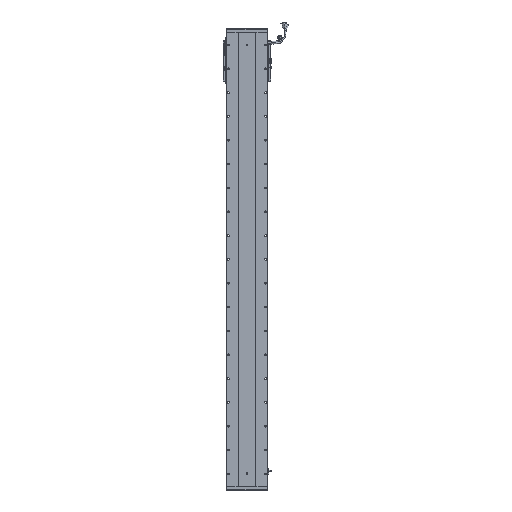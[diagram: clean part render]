
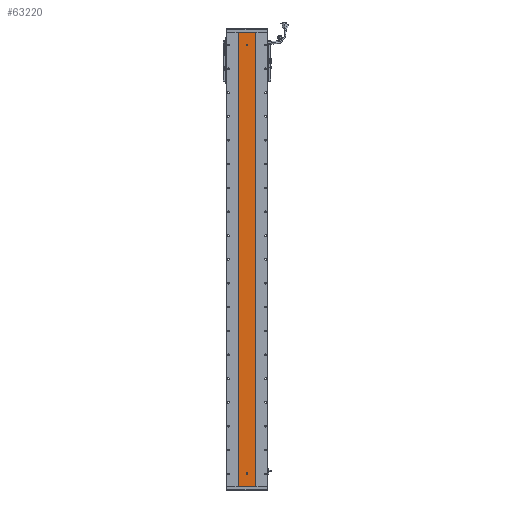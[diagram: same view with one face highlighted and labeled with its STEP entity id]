
A CAD part, front view. The second image highlights one B-rep face of the part: STEP entity #63220.
In plain terms, the highlighted planar face has unit normal (0, -1, 0).
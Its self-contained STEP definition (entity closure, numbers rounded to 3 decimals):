
#448 = CARTESIAN_POINT ( 'NONE',  ( 3277.529, 1415.701, 55. ) ) ;
#2297 = EDGE_CURVE ( 'NONE', #65979, #25247, #43975, .T. ) ;
#2736 = VERTEX_POINT ( 'NONE', #63523 ) ;
#4234 = EDGE_CURVE ( 'NONE', #40079, #34575, #43785, .T. ) ;
#5118 = DIRECTION ( 'NONE',  ( 0., -1., 0. ) ) ;
#5857 = CARTESIAN_POINT ( 'NONE',  ( 3244.748, 1415.701, 1907. ) ) ;
#9708 = EDGE_CURVE ( 'NONE', #34575, #94309, #72416, .T. ) ;
#11545 = CARTESIAN_POINT ( 'NONE',  ( 3316.311, 1415.701, 1907. ) ) ;
#12013 = DIRECTION ( 'NONE',  ( 1., 0., 0. ) ) ;
#13098 = ORIENTED_EDGE ( 'NONE', *, *, #4234, .F. ) ;
#13667 = VECTOR ( 'NONE', #12013, 1000. ) ;
#14312 = CARTESIAN_POINT ( 'NONE',  ( 3244.748, 1415.701, 1907. ) ) ;
#15461 = AXIS2_PLACEMENT_3D ( 'NONE', #87254, #79362, #96245 ) ;
#16588 = CARTESIAN_POINT ( 'NONE',  ( 3244.748, 1415.701, 1907. ) ) ;
#17383 = LINE ( 'NONE', #14312, #75089 ) ;
#17495 = FACE_BOUND ( 'NONE', #66786, .T. ) ;
#17762 = VECTOR ( 'NONE', #80614, 1000. ) ;
#18604 = DIRECTION ( 'NONE',  ( 0., 0., -1. ) ) ;
#18872 = EDGE_CURVE ( 'NONE', #72024, #2736, #24408, .T. ) ;
#20574 = CARTESIAN_POINT ( 'NONE',  ( 3316.311, 1415.701, 1907. ) ) ;
#22018 = CARTESIAN_POINT ( 'NONE',  ( 3280.529, 1415.701, 1853.5 ) ) ;
#23099 = CARTESIAN_POINT ( 'NONE',  ( 3280.529, 1415.701, 1853.5 ) ) ;
#23651 = CARTESIAN_POINT ( 'NONE',  ( 3244.748, 1415.701, 1907. ) ) ;
#23730 = CIRCLE ( 'NONE', #64740, 3. ) ;
#23943 = CARTESIAN_POINT ( 'NONE',  ( 3277.529, 1415.701, 52. ) ) ;
#24081 = LINE ( 'NONE', #72041, #109971 ) ;
#24408 = LINE ( 'NONE', #20574, #17762 ) ;
#24432 = LINE ( 'NONE', #23651, #13667 ) ;
#25247 = VERTEX_POINT ( 'NONE', #448 ) ;
#28951 = VERTEX_POINT ( 'NONE', #41311 ) ;
#29260 = EDGE_CURVE ( 'NONE', #60707, #28951, #41741, .T. ) ;
#31690 = ORIENTED_EDGE ( 'NONE', *, *, #84267, .F. ) ;
#34381 = AXIS2_PLACEMENT_3D ( 'NONE', #52802, #70754, #18604 ) ;
#34575 = VERTEX_POINT ( 'NONE', #75793 ) ;
#36376 = CARTESIAN_POINT ( 'NONE',  ( 3283.529, 1415.701, 52. ) ) ;
#38390 = EDGE_LOOP ( 'NONE', ( #93043, #100247 ) ) ;
#39018 = CARTESIAN_POINT ( 'NONE',  ( 3244.748, 1415.701, 0. ) ) ;
#39705 = ORIENTED_EDGE ( 'NONE', *, *, #2297, .F. ) ;
#39731 = ORIENTED_EDGE ( 'NONE', *, *, #9708, .F. ) ;
#40079 = VERTEX_POINT ( 'NONE', #23943 ) ;
#41311 = CARTESIAN_POINT ( 'NONE',  ( 3280.529, 1415.701, 1856.5 ) ) ;
#41741 = CIRCLE ( 'NONE', #86879, 3. ) ;
#43785 = CIRCLE ( 'NONE', #99282, 3. ) ;
#43975 = CIRCLE ( 'NONE', #34381, 3. ) ;
#47576 = DIRECTION ( 'NONE',  ( 0., 0., -1. ) ) ;
#47913 = CARTESIAN_POINT ( 'NONE',  ( 3280.529, 1415.701, 52. ) ) ;
#49701 = ORIENTED_EDGE ( 'NONE', *, *, #92237, .T. ) ;
#49798 = LINE ( 'NONE', #72960, #71170 ) ;
#51871 = VERTEX_POINT ( 'NONE', #5857 ) ;
#52802 = CARTESIAN_POINT ( 'NONE',  ( 3280.529, 1415.701, 55. ) ) ;
#53236 = CARTESIAN_POINT ( 'NONE',  ( 3280.529, 1415.701, 1850.5 ) ) ;
#57448 = DIRECTION ( 'NONE',  ( 1., 0., 0. ) ) ;
#57679 = DIRECTION ( 'NONE',  ( 0., 0., -1. ) ) ;
#58076 = EDGE_CURVE ( 'NONE', #28951, #60707, #23730, .T. ) ;
#60153 = ORIENTED_EDGE ( 'NONE', *, *, #18872, .F. ) ;
#60707 = VERTEX_POINT ( 'NONE', #53236 ) ;
#60918 = DIRECTION ( 'NONE',  ( 0., 0., 1. ) ) ;
#63220 = ADVANCED_FACE ( 'NONE', ( #17495, #106049, #103371 ), #84874, .F. ) ;
#63523 = CARTESIAN_POINT ( 'NONE',  ( 3316.311, 1415.701, 0. ) ) ;
#64740 = AXIS2_PLACEMENT_3D ( 'NONE', #23099, #5118, #57679 ) ;
#65979 = VERTEX_POINT ( 'NONE', #81621 ) ;
#66588 = AXIS2_PLACEMENT_3D ( 'NONE', #16588, #102483, #60918 ) ;
#66786 = EDGE_LOOP ( 'NONE', ( #13098, #96999, #39705, #31690, #39731 ) ) ;
#66864 = ORIENTED_EDGE ( 'NONE', *, *, #79208, .T. ) ;
#69098 = EDGE_CURVE ( 'NONE', #51871, #72024, #24432, .T. ) ;
#70214 = EDGE_CURVE ( 'NONE', #25247, #40079, #49798, .T. ) ;
#70754 = DIRECTION ( 'NONE',  ( 0., -1., 0. ) ) ;
#71170 = VECTOR ( 'NONE', #73704, 1000. ) ;
#71704 = ORIENTED_EDGE ( 'NONE', *, *, #69098, .F. ) ;
#72024 = VERTEX_POINT ( 'NONE', #11545 ) ;
#72041 = CARTESIAN_POINT ( 'NONE',  ( 3283.529, 1415.701, 55. ) ) ;
#72416 = CIRCLE ( 'NONE', #15461, 3. ) ;
#72810 = CARTESIAN_POINT ( 'NONE',  ( 3244.748, 1415.701, 0. ) ) ;
#72960 = CARTESIAN_POINT ( 'NONE',  ( 3277.529, 1415.701, 55. ) ) ;
#73419 = DIRECTION ( 'NONE',  ( 0., 0., -1. ) ) ;
#73704 = DIRECTION ( 'NONE',  ( 0., 0., -1. ) ) ;
#75089 = VECTOR ( 'NONE', #98730, 1000. ) ;
#75793 = CARTESIAN_POINT ( 'NONE',  ( 3280.529, 1415.701, 49. ) ) ;
#77131 = VERTEX_POINT ( 'NONE', #72810 ) ;
#79208 = EDGE_CURVE ( 'NONE', #77131, #2736, #87718, .T. ) ;
#79362 = DIRECTION ( 'NONE',  ( 0., -1., 0. ) ) ;
#80614 = DIRECTION ( 'NONE',  ( 0., 0., -1. ) ) ;
#81331 = DIRECTION ( 'NONE',  ( 0., -1., 0. ) ) ;
#81621 = CARTESIAN_POINT ( 'NONE',  ( 3283.529, 1415.701, 55. ) ) ;
#84267 = EDGE_CURVE ( 'NONE', #94309, #65979, #24081, .T. ) ;
#84874 = PLANE ( 'NONE',  #66588 ) ;
#86879 = AXIS2_PLACEMENT_3D ( 'NONE', #22018, #81331, #47576 ) ;
#87254 = CARTESIAN_POINT ( 'NONE',  ( 3280.529, 1415.701, 52. ) ) ;
#87718 = LINE ( 'NONE', #39018, #107797 ) ;
#92237 = EDGE_CURVE ( 'NONE', #51871, #77131, #17383, .T. ) ;
#93043 = ORIENTED_EDGE ( 'NONE', *, *, #29260, .F. ) ;
#93162 = EDGE_LOOP ( 'NONE', ( #66864, #60153, #71704, #49701 ) ) ;
#94309 = VERTEX_POINT ( 'NONE', #36376 ) ;
#96245 = DIRECTION ( 'NONE',  ( 0., 0., -1. ) ) ;
#96999 = ORIENTED_EDGE ( 'NONE', *, *, #70214, .F. ) ;
#98730 = DIRECTION ( 'NONE',  ( 0., 0., -1. ) ) ;
#99282 = AXIS2_PLACEMENT_3D ( 'NONE', #47913, #107135, #73419 ) ;
#100247 = ORIENTED_EDGE ( 'NONE', *, *, #58076, .F. ) ;
#102483 = DIRECTION ( 'NONE',  ( 0., 1., 0. ) ) ;
#103371 = FACE_OUTER_BOUND ( 'NONE', #93162, .T. ) ;
#105387 = DIRECTION ( 'NONE',  ( 0., 0., 1. ) ) ;
#106049 = FACE_BOUND ( 'NONE', #38390, .T. ) ;
#107135 = DIRECTION ( 'NONE',  ( 0., -1., 0. ) ) ;
#107797 = VECTOR ( 'NONE', #57448, 1000. ) ;
#109971 = VECTOR ( 'NONE', #105387, 1000. ) ;
